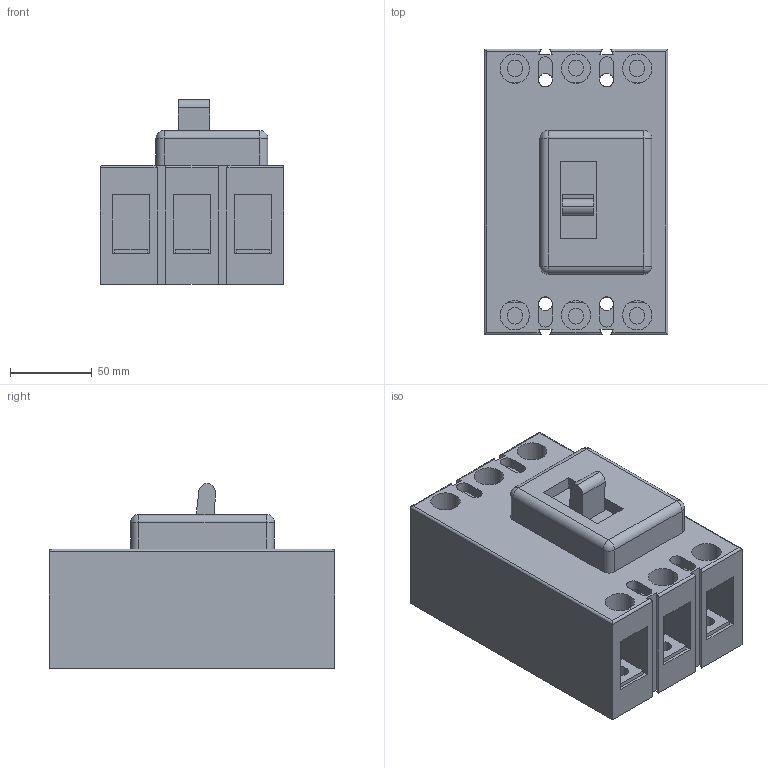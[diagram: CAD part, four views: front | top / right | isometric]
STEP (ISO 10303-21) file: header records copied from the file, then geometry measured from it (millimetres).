
FILE_DESCRIPTION (( 'STEP AP214' ), '1' );
FILE_NAME ('臍04-36 (2.44).STEP', '2023-07-21T13:07:12', ( '' ), ( '' ), 'SwSTEP 2.0', 'SolidWorks 2018', '' );
FILE_SCHEMA (( 'AUTOMOTIVE_DESIGN' ));
Length unit declared in the file: millimetre
Products named in the file (1): 臍04-36 (2.44)
Bounding box: 112.5 x 175 x 113.27 mm (x, y, z)
Volume: 1399499.7 mm3; surface area: 121881.9 mm2
Topology: 1 solids, 4 shells, 192 faces, 474 edges, 308 vertices
Faces by surface type: plane 130, cylinder 58, sphere 4
Entity records: 5674 total; most frequent: CARTESIAN_POINT 1007, DIRECTION 944, ORIENTED_EDGE 940, EDGE_CURVE 470, VECTOR 358, LINE 358, VERTEX_POINT 308, AXIS2_PLACEMENT_3D 293
